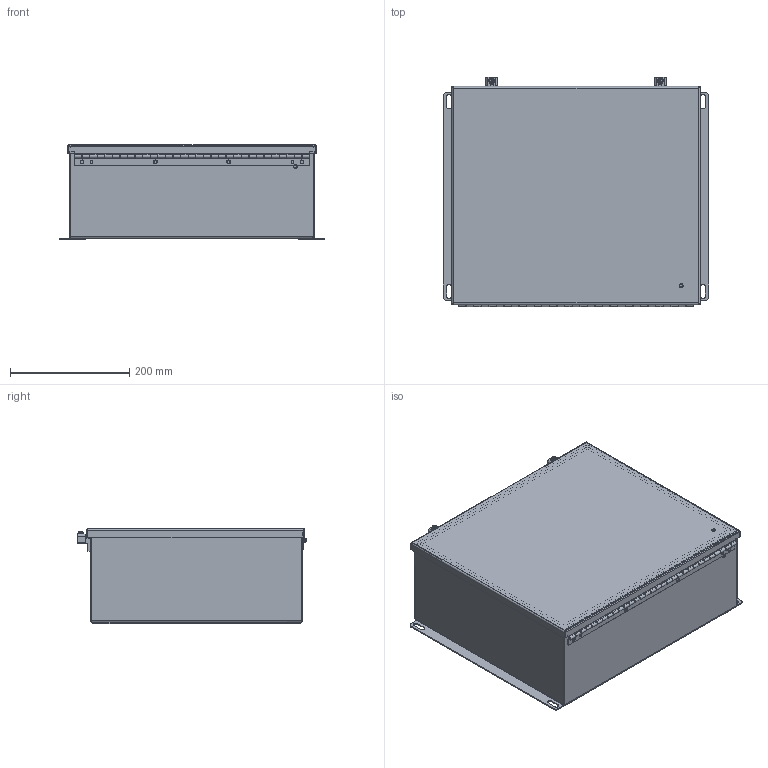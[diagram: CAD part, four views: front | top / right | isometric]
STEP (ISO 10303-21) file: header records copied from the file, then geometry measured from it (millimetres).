
FILE_DESCRIPTION((''),'2;1');
FILE_NAME('MODEL-332_ASM','2025-07-02T13:41:47',('joshi'),('SAGINAW CONTROL & ENGINEERING'),'CREO PARAMETRIC BY PTC INC, 2021284','CREO PARAMETRIC BY PTC INC, 2021284','');
FILE_SCHEMA(('AUTOMOTIVE_DESIGN { 1 0 10303 214 1 1 1 1 }'));
Length unit declared in the file: inch
Products named in the file (22): MODEL-332-BDY; MODEL-332-DR; 100097; 100012; 125828-BASE; 125828-PEM-STUD; 125828-CLAMP; 125828-BOLT; 125828_ASM; 100897; 130023; 122256; MODEL-332-HNG-PN; MODEL-332-HNG-BX; MODEL-332-HNG-DR; 100067; MODEL-332-HNG_ASM; MODEL-332-GSKT; CH-ELJ_SUBPANEL; 102479; CH-ELJ_SUBPANEL-SUBASSEMBLY_ASM; MODEL-332_ASM
Assembly tree (42 placements, depth 3):
  MODEL-332_ASM
    MODEL-332-BDY
    MODEL-332-DR
    100097  x2
    100012  x6
    125828_ASM  x2
      125828-BASE
      125828-PEM-STUD
      125828-CLAMP
      125828-BOLT
    100897  x6
    130023  x2
    122256
    MODEL-332-HNG_ASM
      MODEL-332-HNG-PN
      MODEL-332-HNG-BX
      MODEL-332-HNG-DR
      100067  x4
    MODEL-332-GSKT
    CH-ELJ_SUBPANEL-SUBASSEMBLY_ASM
      CH-ELJ_SUBPANEL
      102479  x6
Bounding box: 444.5 x 383.65 x 159.13 mm (x, y, z)
Volume: 1252216.7 mm3; surface area: 1530598.2 mm2
Topology: 41 solids, 41 shells, 2158 faces, 5280 edges, 3124 vertices
Faces by surface type: plane 972, cylinder 660, bspline 266, torus 128, sphere 68, cone 64
Entity records: 60421 total; most frequent: CARTESIAN_POINT 19212, ORIENTED_EDGE 5910, DIRECTION 5875, PRESENTATION_STYLE_ASSIGNMENT 2972, STYLED_ITEM 2972, CURVE_STYLE 2955, EDGE_CURVE 2955, AXIS2_PLACEMENT_3D 2041
